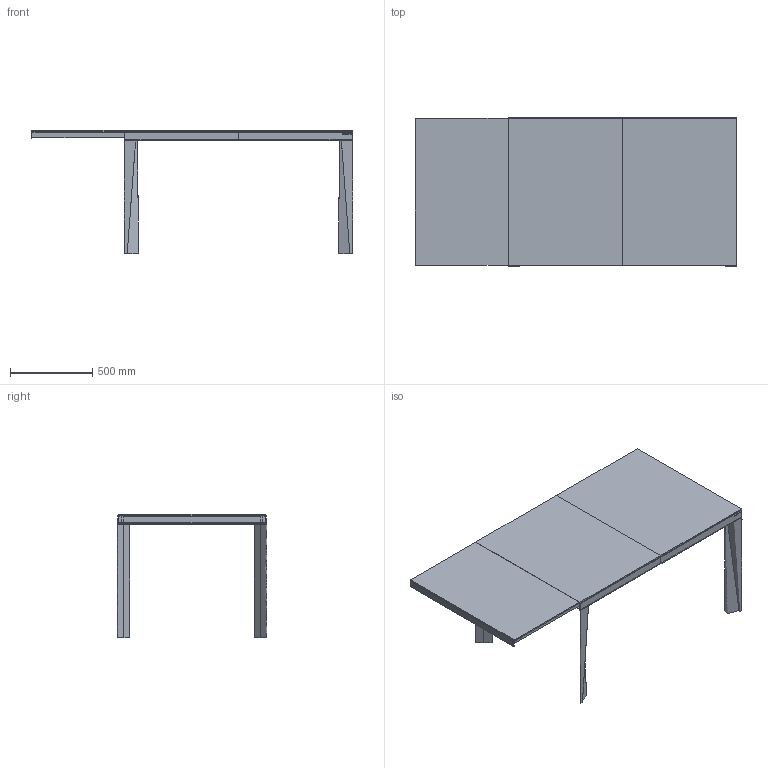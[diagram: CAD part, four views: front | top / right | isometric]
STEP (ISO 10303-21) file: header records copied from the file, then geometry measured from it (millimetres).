
FILE_DESCRIPTION(/* description */ (''),/* implementation_level */ '2;1');
FILE_NAME(/* name */ '10178 - Iceberg 140+58x90',/* time_stamp */ '2010-11-03T14:50:02+01:00',/* author */ (''),/* organization */ (''),/* preprocessor_version */ 'ST-DEVELOPER v10',/* originating_system */ '',/* authorisation */ '');
FILE_SCHEMA (('CONFIG_CONTROL_DESIGN'));
Length unit declared in the file: centimetre
Products named in the file (1): 1
Bounding box: 1956.5 x 906 x 752.51 mm (x, y, z)
Volume: 24456509.4 mm3; surface area: 5803507.8 mm2
Topology: 12 solids, 12 shells, 182 faces, 434 edges, 272 vertices
Faces by surface type: plane 162, bspline 20
Entity records: 5808 total; most frequent: CARTESIAN_POINT 2678, ORIENTED_EDGE 868, EDGE_CURVE 434, B_SPLINE_CURVE_WITH_KNOTS 402, VERTEX_POINT 272, ADVANCED_FACE 182, FACE_OUTER_BOUND 182, EDGE_LOOP 182
